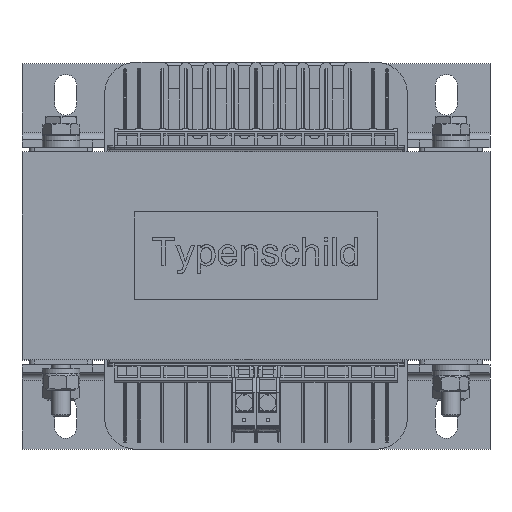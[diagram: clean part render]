
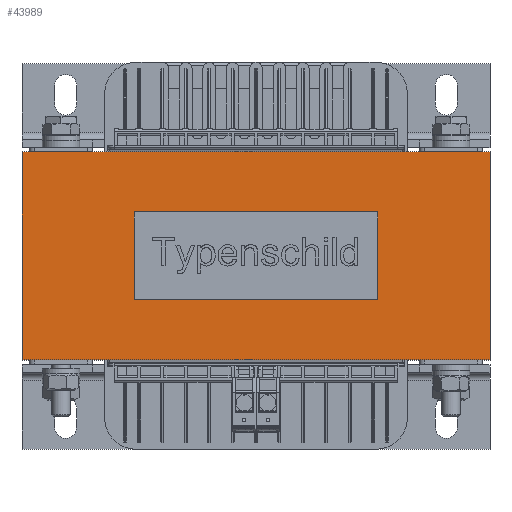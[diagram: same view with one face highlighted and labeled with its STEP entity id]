
A CAD part, top view. The second image highlights one B-rep face of the part: STEP entity #43989.
In plain terms, the highlighted planar face has unit normal (0, 0, 1).
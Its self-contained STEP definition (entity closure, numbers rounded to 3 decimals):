
#943=PLANE('',#46696);
#2654=FACE_OUTER_BOUND('',#5031,.T.);
#5031=EDGE_LOOP('',(#30303,#30304,#30305,#30306));
#7526=LINE('',#62279,#12923);
#7531=LINE('',#62288,#12928);
#7535=LINE('',#62296,#12932);
#7536=LINE('',#62298,#12933);
#12923=VECTOR('',#50135,10.);
#12928=VECTOR('',#50142,10.);
#12932=VECTOR('',#50150,10.);
#12933=VECTOR('',#50153,10.);
#19215=VERTEX_POINT('',#62275);
#19217=VERTEX_POINT('',#62278);
#19219=VERTEX_POINT('',#62284);
#19222=VERTEX_POINT('',#62294);
#23572=EDGE_CURVE('',#19217,#19215,#7526,.T.);
#23577=EDGE_CURVE('',#19219,#19217,#7531,.T.);
#23581=EDGE_CURVE('',#19215,#19222,#7535,.T.);
#23582=EDGE_CURVE('',#19222,#19219,#7536,.T.);
#30303=ORIENTED_EDGE('',*,*,#23582,.T.);
#30304=ORIENTED_EDGE('',*,*,#23577,.T.);
#30305=ORIENTED_EDGE('',*,*,#23572,.T.);
#30306=ORIENTED_EDGE('',*,*,#23581,.T.);
#43989=ADVANCED_FACE('',(#2654),#943,.T.);
#46696=AXIS2_PLACEMENT_3D('',#62297,#50151,#50152);
#50135=DIRECTION('',(1.,0.,0.));
#50142=DIRECTION('',(0.,-1.,0.));
#50150=DIRECTION('',(0.,1.,0.));
#50151=DIRECTION('center_axis',(0.,0.,1.));
#50152=DIRECTION('ref_axis',(1.,0.,0.));
#50153=DIRECTION('',(-1.,0.,0.));
#62275=CARTESIAN_POINT('',(75.,-33.3,12.5));
#62278=CARTESIAN_POINT('',(-75.,-33.3,12.5));
#62279=CARTESIAN_POINT('',(75.,-33.3,12.5));
#62284=CARTESIAN_POINT('',(-75.,33.3,12.5));
#62288=CARTESIAN_POINT('',(-75.,0.,12.5));
#62294=CARTESIAN_POINT('',(75.,33.3,12.5));
#62296=CARTESIAN_POINT('',(75.,0.,12.5));
#62297=CARTESIAN_POINT('Origin',(75.,0.,12.5));
#62298=CARTESIAN_POINT('',(75.,33.3,12.5));
